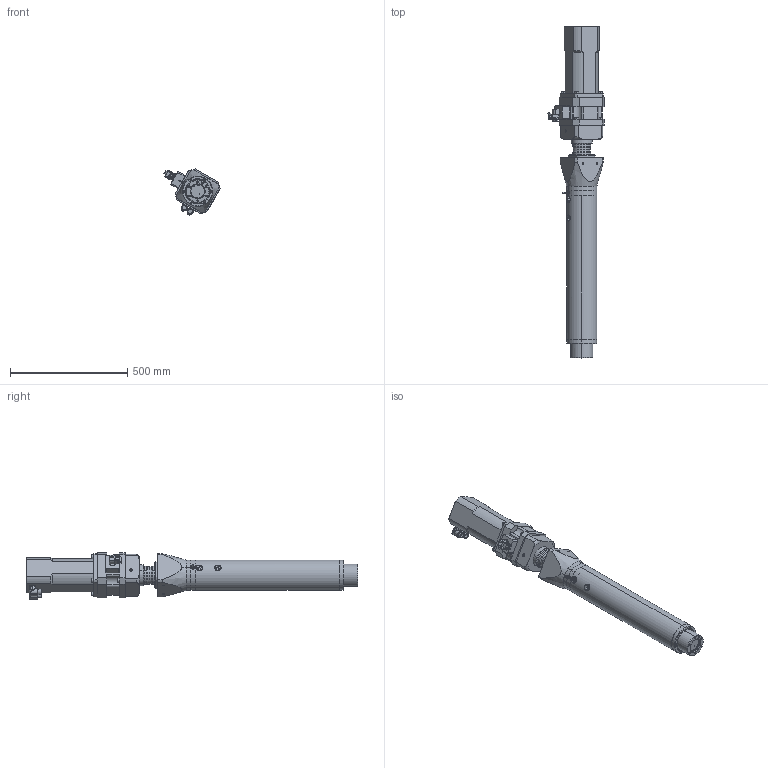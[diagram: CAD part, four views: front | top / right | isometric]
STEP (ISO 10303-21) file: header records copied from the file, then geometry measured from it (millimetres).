
FILE_DESCRIPTION (( 'STEP AP203' ), '1' );
FILE_NAME ('KM LN5I0300-035-025S.STEP', '2019-07-05T10:38:51', ( '' ), ( '' ), 'SwSTEP 2.0', 'SolidWorks 2016', '' );
FILE_SCHEMA (( 'CONFIG_CONTROL_DESIGN' ));
Length unit declared in the file: millimetre
Products named in the file (1): KM LN5I0300-035-025S
Bounding box: 239.81 x 1417.5 x 196.66 mm (x, y, z)
Volume: 16458493.9 mm3; surface area: 1525118 mm2
Topology: 33 solids, 33 shells, 2206 faces, 5484 edges, 3469 vertices
Faces by surface type: plane 1415, cylinder 511, cone 208, torus 68, bspline 2, sphere 2
Entity records: 65775 total; most frequent: CARTESIAN_POINT 12836, DIRECTION 10962, ORIENTED_EDGE 10700, EDGE_CURVE 5350, VECTOR 3988, LINE 3988, AXIS2_PLACEMENT_3D 3487, VERTEX_POINT 3469
